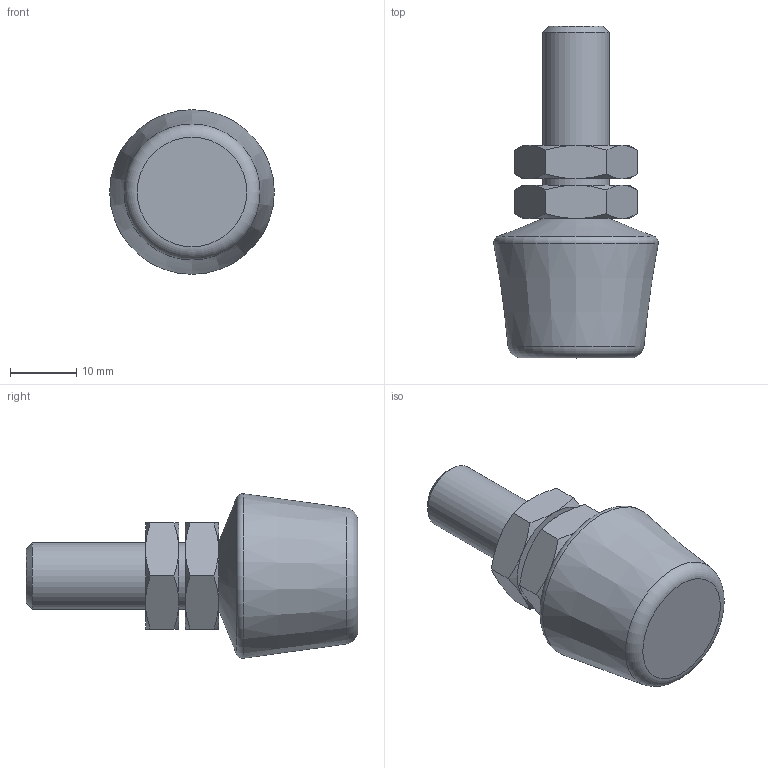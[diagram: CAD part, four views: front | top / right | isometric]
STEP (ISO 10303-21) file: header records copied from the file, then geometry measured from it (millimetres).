
FILE_DESCRIPTION( ( 'STEP AP203' ), '1' );
FILE_NAME( 'C:/Temp/Ganter_Step_05_03_2020/data/2_4/gn_708_1/gn_708_1_ni/Stainless Steel-Clamping bolt GN 708.1-M10-50-A-NI (0).stp', '2020-03-13T05:51:19', ( 'License CC BY-ND 4.0' ), ( 'CADENAS' ), ' ', 'PARTsolutions', ' ' );
FILE_SCHEMA( ( 'CONFIG_CONTROL_DESIGN' ) );
Length unit declared in the file: millimetre
Products named in the file (3): Stainless Steel-Clamping bolt GN 708.1-M10-50-A-NI (0); _Edelstahl-Andrueckschraube GN 708.1-M10-50-A-NI (0)-1; _Edelstahl-Andrueckschraube GN 708.1-M10-50-A-NI-2
Assembly tree (3 placements, depth 2):
  Stainless Steel-Clamping bolt GN 708.1-M10-50-A-NI (0)
    _Edelstahl-Andrueckschraube GN 708.1-M10-50-A-NI (0)-1
    _Edelstahl-Andrueckschraube GN 708.1-M10-50-A-NI-2  x2
Bounding box: 24.8 x 50 x 24.8 mm (x, y, z)
Volume: 11781.8 mm3; surface area: 4350.7 mm2
Topology: 3 solids, 3 shells, 54 faces, 111 edges, 63 vertices
Faces by surface type: cone 31, plane 18, cylinder 3, torus 2
Full cylindrical faces by diameter (mm): 8.376 x2, 10 x1
Entity records: 954 total; most frequent: CARTESIAN_POINT 260, DIRECTION 122, ORIENTED_EDGE 106, AXIS2_PLACEMENT_3D 58, EDGE_CURVE 53, EDGE_LOOP 42, VERTEX_POINT 36, FACE_OUTER_BOUND 35
